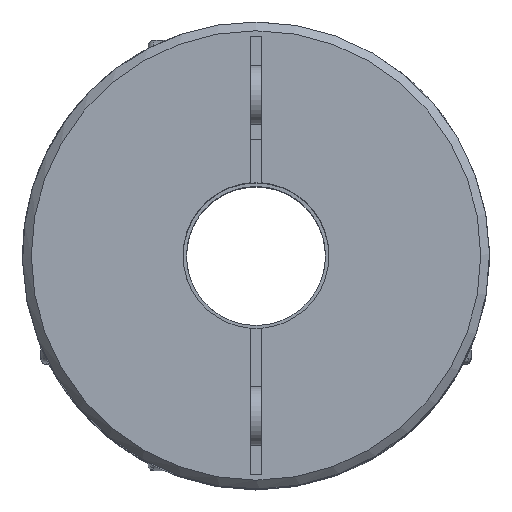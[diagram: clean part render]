
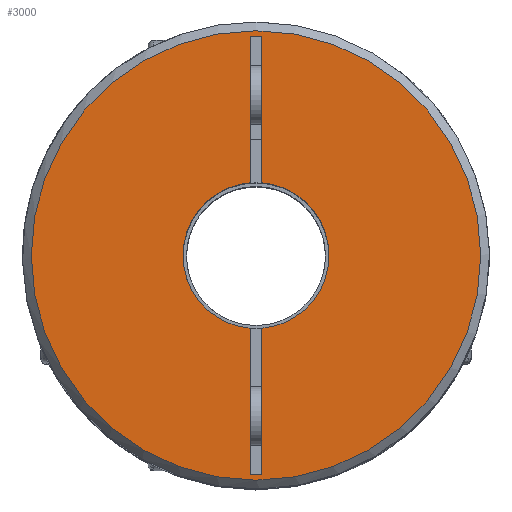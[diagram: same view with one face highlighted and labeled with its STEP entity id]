
A CAD part, top view. The second image highlights one B-rep face of the part: STEP entity #3000.
In plain terms, the highlighted planar face has unit normal (0, 0, 1).
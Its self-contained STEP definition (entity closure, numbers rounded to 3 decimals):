
#140 = CARTESIAN_POINT ( 'NONE',  ( -0.4, 15., 20.5 ) ) ;
#246 = VECTOR ( 'NONE', #1605, 1000. ) ;
#315 = AXIS2_PLACEMENT_3D ( 'NONE', #3168, #3837, #1467 ) ;
#320 = EDGE_CURVE ( 'NONE', #1986, #1986, #1434, .T. ) ;
#377 = EDGE_LOOP ( 'NONE', ( #585 ) ) ;
#506 = DIRECTION ( 'NONE',  ( 0., 1., 0. ) ) ;
#561 = ORIENTED_EDGE ( 'NONE', *, *, #611, .F. ) ;
#568 = DIRECTION ( 'NONE',  ( 0., 1., 0. ) ) ;
#585 = ORIENTED_EDGE ( 'NONE', *, *, #320, .T. ) ;
#608 = EDGE_CURVE ( 'NONE', #2354, #1761, #1224, .T. ) ;
#611 = EDGE_CURVE ( 'NONE', #2394, #4219, #2318, .T. ) ;
#749 = VECTOR ( 'NONE', #2535, 1000. ) ;
#804 = ORIENTED_EDGE ( 'NONE', *, *, #1411, .F. ) ;
#823 = CARTESIAN_POINT ( 'NONE',  ( 0.4, -15., 20.5 ) ) ;
#857 = FACE_OUTER_BOUND ( 'NONE', #377, .T. ) ;
#863 = LINE ( 'NONE', #3887, #4164 ) ;
#949 = DIRECTION ( 'NONE',  ( 0., 0., 1. ) ) ;
#976 = CARTESIAN_POINT ( 'NONE',  ( 0.4, 4.984, 20.5 ) ) ;
#1033 = LINE ( 'NONE', #2065, #1111 ) ;
#1090 = ORIENTED_EDGE ( 'NONE', *, *, #1195, .T. ) ;
#1111 = VECTOR ( 'NONE', #3071, 1000. ) ;
#1158 = EDGE_CURVE ( 'NONE', #2151, #2303, #1883, .T. ) ;
#1195 = EDGE_CURVE ( 'NONE', #2394, #2310, #1567, .T. ) ;
#1208 = CARTESIAN_POINT ( 'NONE',  ( -0.4, -15., 20.5 ) ) ;
#1224 = CIRCLE ( 'NONE', #3701, 5. ) ;
#1324 = ORIENTED_EDGE ( 'NONE', *, *, #3314, .T. ) ;
#1340 = VECTOR ( 'NONE', #3609, 1000. ) ;
#1400 = AXIS2_PLACEMENT_3D ( 'NONE', #3290, #2217, #506 ) ;
#1411 = EDGE_CURVE ( 'NONE', #1521, #2310, #2266, .T. ) ;
#1434 = CIRCLE ( 'NONE', #4410, 15.4 ) ;
#1467 = DIRECTION ( 'NONE',  ( 1., 0., 0. ) ) ;
#1521 = VERTEX_POINT ( 'NONE', #3741 ) ;
#1567 = LINE ( 'NONE', #3277, #246 ) ;
#1605 = DIRECTION ( 'NONE',  ( 0., 1., 0. ) ) ;
#1761 = VERTEX_POINT ( 'NONE', #976 ) ;
#1783 = VECTOR ( 'NONE', #3319, 1000. ) ;
#1883 = LINE ( 'NONE', #4222, #1340 ) ;
#1986 = VERTEX_POINT ( 'NONE', #2617 ) ;
#2009 = EDGE_CURVE ( 'NONE', #2151, #1521, #3210, .T. ) ;
#2065 = CARTESIAN_POINT ( 'NONE',  ( 0.4, 15., 20.5 ) ) ;
#2151 = VERTEX_POINT ( 'NONE', #2241 ) ;
#2217 = DIRECTION ( 'NONE',  ( 0., 0., -1. ) ) ;
#2239 = PLANE ( 'NONE',  #1400 ) ;
#2241 = CARTESIAN_POINT ( 'NONE',  ( -0.4, 15., 20.5 ) ) ;
#2244 = CARTESIAN_POINT ( 'NONE',  ( -0.4, -15., 20.5 ) ) ;
#2266 = CIRCLE ( 'NONE', #315, 5. ) ;
#2303 = VERTEX_POINT ( 'NONE', #3513 ) ;
#2310 = VERTEX_POINT ( 'NONE', #2545 ) ;
#2318 = LINE ( 'NONE', #1208, #1783 ) ;
#2354 = VERTEX_POINT ( 'NONE', #4253 ) ;
#2385 = CARTESIAN_POINT ( 'NONE',  ( 0., 0., 20.5 ) ) ;
#2394 = VERTEX_POINT ( 'NONE', #2244 ) ;
#2535 = DIRECTION ( 'NONE',  ( 0., -1., 0. ) ) ;
#2545 = CARTESIAN_POINT ( 'NONE',  ( -0.4, -4.984, 20.5 ) ) ;
#2617 = CARTESIAN_POINT ( 'NONE',  ( 0., 15.4, 20.5 ) ) ;
#2653 = EDGE_CURVE ( 'NONE', #4219, #2354, #863, .T. ) ;
#2738 = ORIENTED_EDGE ( 'NONE', *, *, #608, .F. ) ;
#2779 = ORIENTED_EDGE ( 'NONE', *, *, #2653, .F. ) ;
#2806 = EDGE_LOOP ( 'NONE', ( #1324, #2738, #2779, #561, #1090, #804, #3622, #3424 ) ) ;
#3000 = ADVANCED_FACE ( 'NONE', ( #857, #3881 ), #2239, .F. ) ;
#3026 = CARTESIAN_POINT ( 'NONE',  ( 0., 0., 20.5 ) ) ;
#3071 = DIRECTION ( 'NONE',  ( 0., -1., 0. ) ) ;
#3168 = CARTESIAN_POINT ( 'NONE',  ( 0., 0., 20.5 ) ) ;
#3210 = LINE ( 'NONE', #140, #749 ) ;
#3277 = CARTESIAN_POINT ( 'NONE',  ( -0.4, 1.5, 20.5 ) ) ;
#3290 = CARTESIAN_POINT ( 'NONE',  ( 0., 1.5, 20.5 ) ) ;
#3314 = EDGE_CURVE ( 'NONE', #2303, #1761, #1033, .T. ) ;
#3319 = DIRECTION ( 'NONE',  ( 1., 0., 0. ) ) ;
#3424 = ORIENTED_EDGE ( 'NONE', *, *, #1158, .T. ) ;
#3513 = CARTESIAN_POINT ( 'NONE',  ( 0.4, 15., 20.5 ) ) ;
#3609 = DIRECTION ( 'NONE',  ( 1., 0., 0. ) ) ;
#3622 = ORIENTED_EDGE ( 'NONE', *, *, #2009, .F. ) ;
#3701 = AXIS2_PLACEMENT_3D ( 'NONE', #3026, #949, #3986 ) ;
#3741 = CARTESIAN_POINT ( 'NONE',  ( -0.4, 4.984, 20.5 ) ) ;
#3837 = DIRECTION ( 'NONE',  ( 0., 0., 1. ) ) ;
#3881 = FACE_BOUND ( 'NONE', #2806, .T. ) ;
#3887 = CARTESIAN_POINT ( 'NONE',  ( 0.4, 1.5, 20.5 ) ) ;
#3986 = DIRECTION ( 'NONE',  ( 1., 0., 0. ) ) ;
#4164 = VECTOR ( 'NONE', #568, 1000. ) ;
#4219 = VERTEX_POINT ( 'NONE', #823 ) ;
#4222 = CARTESIAN_POINT ( 'NONE',  ( -0.4, 15., 20.5 ) ) ;
#4253 = CARTESIAN_POINT ( 'NONE',  ( 0.4, -4.984, 20.5 ) ) ;
#4403 = DIRECTION ( 'NONE',  ( 0., 0., 1. ) ) ;
#4410 = AXIS2_PLACEMENT_3D ( 'NONE', #2385, #4403, #4427 ) ;
#4427 = DIRECTION ( 'NONE',  ( 0., 1., 0. ) ) ;
